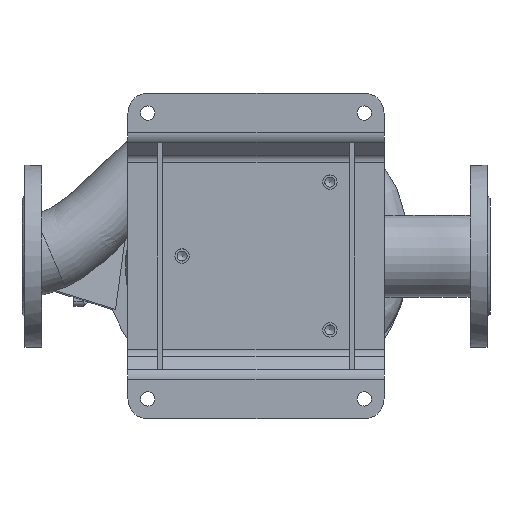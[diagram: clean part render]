
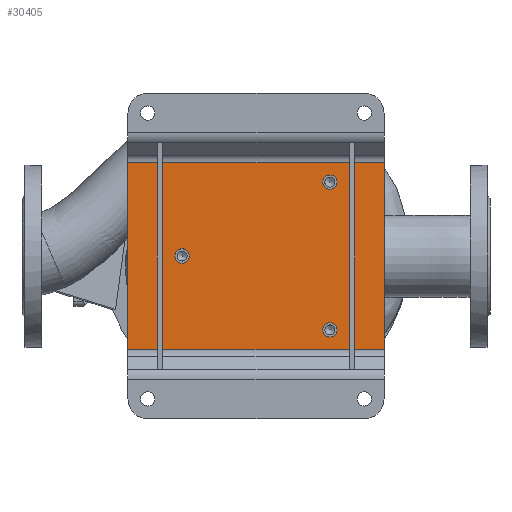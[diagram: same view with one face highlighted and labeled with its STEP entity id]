
A CAD part, top view. The second image highlights one B-rep face of the part: STEP entity #30405.
In plain terms, the highlighted planar face has unit normal (0, 0, 1) as drawn and (0, -1, 0) by its records, which use the part's own axes.
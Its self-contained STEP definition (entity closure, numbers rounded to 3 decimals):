
#2214 = VERTEX_POINT ( 'NONE', #23063 ) ;
#4074 = DIRECTION ( 'NONE',  ( -1., 0., 0. ) ) ;
#4494 = ORIENTED_EDGE ( 'NONE', *, *, #92122, .F. ) ;
#4579 = DIRECTION ( 'NONE',  ( 0., -1., 0. ) ) ;
#4656 = CARTESIAN_POINT ( 'NONE',  ( 95., -5., 130. ) ) ;
#7405 = EDGE_LOOP ( 'NONE', ( #78963 ) ) ;
#9627 = DIRECTION ( 'NONE',  ( 0., -1., 0. ) ) ;
#10057 = CARTESIAN_POINT ( 'NONE',  ( 75., -5., 67.75 ) ) ;
#10851 = LINE ( 'NONE', #40358, #71923 ) ;
#11357 = DIRECTION ( 'NONE',  ( 0., 0., -1. ) ) ;
#13246 = DIRECTION ( 'NONE',  ( 1., 0., 0. ) ) ;
#14003 = ORIENTED_EDGE ( 'NONE', *, *, #32654, .F. ) ;
#14420 = CIRCLE ( 'NONE', #33003, 7.25 ) ;
#15518 = DIRECTION ( 'NONE',  ( 0., 0., -1. ) ) ;
#18350 = VERTEX_POINT ( 'NONE', #4656 ) ;
#19068 = AXIS2_PLACEMENT_3D ( 'NONE', #84393, #4579, #11357 ) ;
#20238 = EDGE_CURVE ( 'NONE', #18350, #20546, #58717, .T. ) ;
#20546 = VERTEX_POINT ( 'NONE', #23476 ) ;
#23063 = CARTESIAN_POINT ( 'NONE',  ( -75., -5., 67.75 ) ) ;
#23476 = CARTESIAN_POINT ( 'NONE',  ( 95., -5., -130. ) ) ;
#23486 = VERTEX_POINT ( 'NONE', #92883 ) ;
#28795 = AXIS2_PLACEMENT_3D ( 'NONE', #68084, #9627, #89428 ) ;
#30251 = VECTOR ( 'NONE', #13246, 1000. ) ;
#30405 = ADVANCED_FACE ( 'NONE', ( #32671, #77586, #62121, #70778 ), #93514, .T. ) ;
#32654 = EDGE_CURVE ( 'NONE', #53089, #53089, #14420, .T. ) ;
#32671 = FACE_BOUND ( 'NONE', #93012, .T. ) ;
#33003 = AXIS2_PLACEMENT_3D ( 'NONE', #48845, #93286, #55581 ) ;
#36409 = CARTESIAN_POINT ( 'NONE',  ( -95., -5., 130. ) ) ;
#40358 = CARTESIAN_POINT ( 'NONE',  ( -95., -5., -130. ) ) ;
#40923 = EDGE_LOOP ( 'NONE', ( #42885 ) ) ;
#42885 = ORIENTED_EDGE ( 'NONE', *, *, #64745, .F. ) ;
#43017 = ORIENTED_EDGE ( 'NONE', *, *, #43431, .F. ) ;
#43431 = EDGE_CURVE ( 'NONE', #60603, #18350, #87174, .T. ) ;
#44083 = VECTOR ( 'NONE', #59198, 1000. ) ;
#45789 = CIRCLE ( 'NONE', #28795, 7.25 ) ;
#48845 = CARTESIAN_POINT ( 'NONE',  ( 75., -5., 75. ) ) ;
#52211 = CIRCLE ( 'NONE', #87719, 7.25 ) ;
#53089 = VERTEX_POINT ( 'NONE', #10057 ) ;
#55581 = DIRECTION ( 'NONE',  ( 0., 0., -1. ) ) ;
#58717 = LINE ( 'NONE', #87247, #44083 ) ;
#58987 = CARTESIAN_POINT ( 'NONE',  ( 0., -5., -75. ) ) ;
#59198 = DIRECTION ( 'NONE',  ( 0., 0., -1. ) ) ;
#60603 = VERTEX_POINT ( 'NONE', #88617 ) ;
#62121 = FACE_BOUND ( 'NONE', #7405, .T. ) ;
#64745 = EDGE_CURVE ( 'NONE', #94576, #94576, #52211, .T. ) ;
#68084 = CARTESIAN_POINT ( 'NONE',  ( -75., -5., 75. ) ) ;
#68155 = ORIENTED_EDGE ( 'NONE', *, *, #88084, .F. ) ;
#70388 = LINE ( 'NONE', #36409, #91952 ) ;
#70778 = FACE_OUTER_BOUND ( 'NONE', #72646, .T. ) ;
#71923 = VECTOR ( 'NONE', #4074, 1000. ) ;
#72646 = EDGE_LOOP ( 'NONE', ( #82931, #43017, #68155, #4494 ) ) ;
#73509 = DIRECTION ( 'NONE',  ( 0., -1., 0. ) ) ;
#73623 = DIRECTION ( 'NONE',  ( 0., 0., 1. ) ) ;
#77586 = FACE_BOUND ( 'NONE', #40923, .T. ) ;
#78963 = ORIENTED_EDGE ( 'NONE', *, *, #94373, .F. ) ;
#79452 = CARTESIAN_POINT ( 'NONE',  ( -95., -5., 130. ) ) ;
#82931 = ORIENTED_EDGE ( 'NONE', *, *, #20238, .F. ) ;
#84393 = CARTESIAN_POINT ( 'NONE',  ( 0., -5., 0. ) ) ;
#87174 = LINE ( 'NONE', #79452, #30251 ) ;
#87247 = CARTESIAN_POINT ( 'NONE',  ( 95., -5., 130. ) ) ;
#87719 = AXIS2_PLACEMENT_3D ( 'NONE', #58987, #73509, #15518 ) ;
#88084 = EDGE_CURVE ( 'NONE', #23486, #60603, #70388, .T. ) ;
#88258 = CARTESIAN_POINT ( 'NONE',  ( 0., -5., -82.25 ) ) ;
#88617 = CARTESIAN_POINT ( 'NONE',  ( -95., -5., 130. ) ) ;
#89428 = DIRECTION ( 'NONE',  ( 0., 0., -1. ) ) ;
#91952 = VECTOR ( 'NONE', #73623, 1000. ) ;
#92122 = EDGE_CURVE ( 'NONE', #20546, #23486, #10851, .T. ) ;
#92883 = CARTESIAN_POINT ( 'NONE',  ( -95., -5., -130. ) ) ;
#93012 = EDGE_LOOP ( 'NONE', ( #14003 ) ) ;
#93286 = DIRECTION ( 'NONE',  ( 0., -1., 0. ) ) ;
#93514 = PLANE ( 'NONE',  #19068 ) ;
#94373 = EDGE_CURVE ( 'NONE', #2214, #2214, #45789, .T. ) ;
#94576 = VERTEX_POINT ( 'NONE', #88258 ) ;
